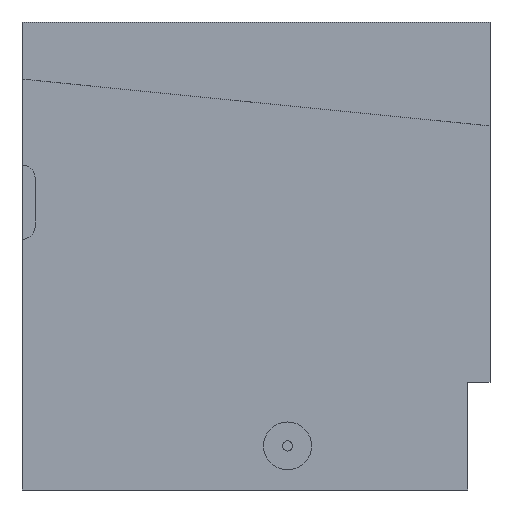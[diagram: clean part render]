
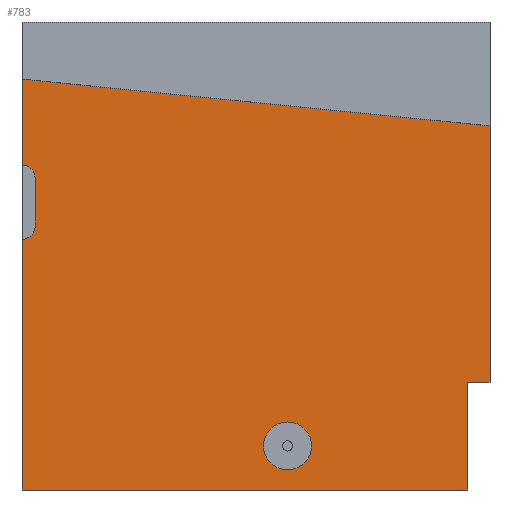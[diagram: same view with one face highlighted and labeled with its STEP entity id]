
A CAD part, front view. The second image highlights one B-rep face of the part: STEP entity #783.
In plain terms, the highlighted planar face has unit normal (0, -1, 0).
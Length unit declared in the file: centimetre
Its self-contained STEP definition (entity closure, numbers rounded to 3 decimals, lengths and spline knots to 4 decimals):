
#38 = VECTOR ( 'NONE', #702, 100. ) ;
#45 = CARTESIAN_POINT ( 'NONE',  ( 0., 0., 0. ) ) ;
#51 = CARTESIAN_POINT ( 'NONE',  ( 28.1134, 0., 665.9363 ) ) ;
#57 = VECTOR ( 'NONE', #861, 100. ) ;
#83 = DIRECTION ( 'NONE',  ( 0., -1., 0. ) ) ;
#90 = LINE ( 'NONE', #1001, #288 ) ;
#102 = VERTEX_POINT ( 'NONE', #803 ) ;
#105 = CARTESIAN_POINT ( 'NONE',  ( 1000., 0., 1000. ) ) ;
#119 = LINE ( 'NONE', #45, #38 ) ;
#138 = CARTESIAN_POINT ( 'NONE',  ( 952.1463, 0., 230.1827 ) ) ;
#141 = DIRECTION ( 'NONE',  ( 0., 0., 1. ) ) ;
#152 = DIRECTION ( 'NONE',  ( 0., -1., 0. ) ) ;
#177 = VERTEX_POINT ( 'NONE', #437 ) ;
#196 = ORIENTED_EDGE ( 'NONE', *, *, #766, .F. ) ;
#197 = VECTOR ( 'NONE', #449, 100. ) ;
#199 = FACE_BOUND ( 'NONE', #281, .T. ) ;
#204 = CARTESIAN_POINT ( 'NONE',  ( 952.1463, 0., 230.1827 ) ) ;
#205 = ORIENTED_EDGE ( 'NONE', *, *, #591, .F. ) ;
#247 = VECTOR ( 'NONE', #1006, 100. ) ;
#261 = VERTEX_POINT ( 'NONE', #516 ) ;
#269 = VERTEX_POINT ( 'NONE', #924 ) ;
#278 = EDGE_CURVE ( 'NONE', #911, #1040, #960, .T. ) ;
#281 = EDGE_LOOP ( 'NONE', ( #205, #522 ) ) ;
#284 = PLANE ( 'NONE',  #1037 ) ;
#288 = VECTOR ( 'NONE', #756, 100. ) ;
#290 = CARTESIAN_POINT ( 'NONE',  ( 567.4374, 0., 145.4183 ) ) ;
#296 = LINE ( 'NONE', #726, #731 ) ;
#334 = ORIENTED_EDGE ( 'NONE', *, *, #957, .T. ) ;
#371 = CARTESIAN_POINT ( 'NONE',  ( 0., 0., 877.9929 ) ) ;
#377 = VERTEX_POINT ( 'NONE', #786 ) ;
#378 = DIRECTION ( 'NONE',  ( 0., 0., 1. ) ) ;
#393 = DIRECTION ( 'NONE',  ( 0., 1., 0. ) ) ;
#400 = ORIENTED_EDGE ( 'NONE', *, *, #524, .F. ) ;
#417 = DIRECTION ( 'NONE',  ( 0., 0., 1. ) ) ;
#436 = VERTEX_POINT ( 'NONE', #659 ) ;
#437 = CARTESIAN_POINT ( 'NONE',  ( 567.4374, 0., 42.9382 ) ) ;
#449 = DIRECTION ( 'NONE',  ( 0., 0., -1. ) ) ;
#454 = ORIENTED_EDGE ( 'NONE', *, *, #896, .F. ) ;
#488 = CARTESIAN_POINT ( 'NONE',  ( 0., 0., 535.8519 ) ) ;
#490 = CIRCLE ( 'NONE', #696, 51.2401 ) ;
#497 = DIRECTION ( 'NONE',  ( 0., 0., -1. ) ) ;
#511 = LINE ( 'NONE', #105, #247 ) ;
#516 = CARTESIAN_POINT ( 'NONE',  ( 28.1134, 0., 665.9363 ) ) ;
#520 = LINE ( 'NONE', #928, #197 ) ;
#522 = ORIENTED_EDGE ( 'NONE', *, *, #1044, .F. ) ;
#524 = EDGE_CURVE ( 'NONE', #261, #436, #855, .T. ) ;
#526 = ORIENTED_EDGE ( 'NONE', *, *, #939, .T. ) ;
#537 = LINE ( 'NONE', #51, #887 ) ;
#554 = DIRECTION ( 'NONE',  ( 0., 0., -1. ) ) ;
#589 = CARTESIAN_POINT ( 'NONE',  ( 567.4374, 0., 94.1783 ) ) ;
#590 = ORIENTED_EDGE ( 'NONE', *, *, #970, .F. ) ;
#591 = EDGE_CURVE ( 'NONE', #177, #871, #891, .T. ) ;
#595 = ORIENTED_EDGE ( 'NONE', *, *, #893, .T. ) ;
#598 = AXIS2_PLACEMENT_3D ( 'NONE', #884, #393, #141 ) ;
#609 = DIRECTION ( 'NONE',  ( 0., 1., 0. ) ) ;
#613 = AXIS2_PLACEMENT_3D ( 'NONE', #589, #838, #991 ) ;
#615 = DIRECTION ( 'NONE',  ( 0.995, 0., -0.1 ) ) ;
#625 = ORIENTED_EDGE ( 'NONE', *, *, #777, .F. ) ;
#626 = LINE ( 'NONE', #795, #972 ) ;
#631 = EDGE_CURVE ( 'NONE', #915, #436, #90, .T. ) ;
#647 = VERTEX_POINT ( 'NONE', #679 ) ;
#659 = CARTESIAN_POINT ( 'NONE',  ( 0., 0., 694.0497 ) ) ;
#679 = CARTESIAN_POINT ( 'NONE',  ( 1000., 0., 777.9259 ) ) ;
#696 = AXIS2_PLACEMENT_3D ( 'NONE', #824, #152, #497 ) ;
#702 = DIRECTION ( 'NONE',  ( 1., 0., 0. ) ) ;
#726 = CARTESIAN_POINT ( 'NONE',  ( 1000., 0., 777.9259 ) ) ;
#731 = VECTOR ( 'NONE', #615, 100. ) ;
#741 = ORIENTED_EDGE ( 'NONE', *, *, #278, .T. ) ;
#756 = DIRECTION ( 'NONE',  ( 0., 0., -1. ) ) ;
#766 = EDGE_CURVE ( 'NONE', #647, #377, #511, .T. ) ;
#777 = EDGE_CURVE ( 'NONE', #963, #102, #520, .T. ) ;
#778 = DIRECTION ( 'NONE',  ( 0., 0., 1. ) ) ;
#783 = ADVANCED_FACE ( 'NONE', ( #199, #1015 ), #284, .F. ) ;
#786 = CARTESIAN_POINT ( 'NONE',  ( 1000., 0., 230.1827 ) ) ;
#795 = CARTESIAN_POINT ( 'NONE',  ( 0., 0., 1000. ) ) ;
#803 = CARTESIAN_POINT ( 'NONE',  ( 952.1463, 0., 0. ) ) ;
#810 = AXIS2_PLACEMENT_3D ( 'NONE', #1062, #83, #417 ) ;
#824 = CARTESIAN_POINT ( 'NONE',  ( 567.4374, 0., 94.1783 ) ) ;
#838 = DIRECTION ( 'NONE',  ( 0., -1., 0. ) ) ;
#855 = CIRCLE ( 'NONE', #810, 28.1134 ) ;
#861 = DIRECTION ( 'NONE',  ( 1., 0., 0. ) ) ;
#871 = VERTEX_POINT ( 'NONE', #290 ) ;
#881 = LINE ( 'NONE', #138, #57 ) ;
#884 = CARTESIAN_POINT ( 'NONE',  ( 0., 0., 563.9653 ) ) ;
#887 = VECTOR ( 'NONE', #378, 100. ) ;
#891 = CIRCLE ( 'NONE', #613, 51.2401 ) ;
#893 = EDGE_CURVE ( 'NONE', #269, #102, #119, .T. ) ;
#896 = EDGE_CURVE ( 'NONE', #911, #261, #537, .T. ) ;
#911 = VERTEX_POINT ( 'NONE', #1032 ) ;
#914 = CARTESIAN_POINT ( 'NONE',  ( 0., 0., 1000. ) ) ;
#915 = VERTEX_POINT ( 'NONE', #371 ) ;
#920 = ORIENTED_EDGE ( 'NONE', *, *, #631, .T. ) ;
#924 = CARTESIAN_POINT ( 'NONE',  ( 0., 0., 0. ) ) ;
#928 = CARTESIAN_POINT ( 'NONE',  ( 952.1463, 0., 230.1827 ) ) ;
#939 = EDGE_CURVE ( 'NONE', #1040, #269, #626, .T. ) ;
#953 = EDGE_LOOP ( 'NONE', ( #454, #741, #526, #595, #625, #334, #196, #590, #920, #400 ) ) ;
#957 = EDGE_CURVE ( 'NONE', #963, #377, #881, .T. ) ;
#960 = CIRCLE ( 'NONE', #598, 28.1134 ) ;
#963 = VERTEX_POINT ( 'NONE', #204 ) ;
#970 = EDGE_CURVE ( 'NONE', #915, #647, #296, .T. ) ;
#972 = VECTOR ( 'NONE', #554, 100. ) ;
#991 = DIRECTION ( 'NONE',  ( 0., 0., -1. ) ) ;
#1001 = CARTESIAN_POINT ( 'NONE',  ( 0., 0., 1000. ) ) ;
#1006 = DIRECTION ( 'NONE',  ( 0., 0., -1. ) ) ;
#1015 = FACE_OUTER_BOUND ( 'NONE', #953, .T. ) ;
#1032 = CARTESIAN_POINT ( 'NONE',  ( 28.1134, 0., 563.9653 ) ) ;
#1037 = AXIS2_PLACEMENT_3D ( 'NONE', #914, #609, #778 ) ;
#1040 = VERTEX_POINT ( 'NONE', #488 ) ;
#1044 = EDGE_CURVE ( 'NONE', #871, #177, #490, .T. ) ;
#1062 = CARTESIAN_POINT ( 'NONE',  ( 0., 0., 665.9363 ) ) ;
